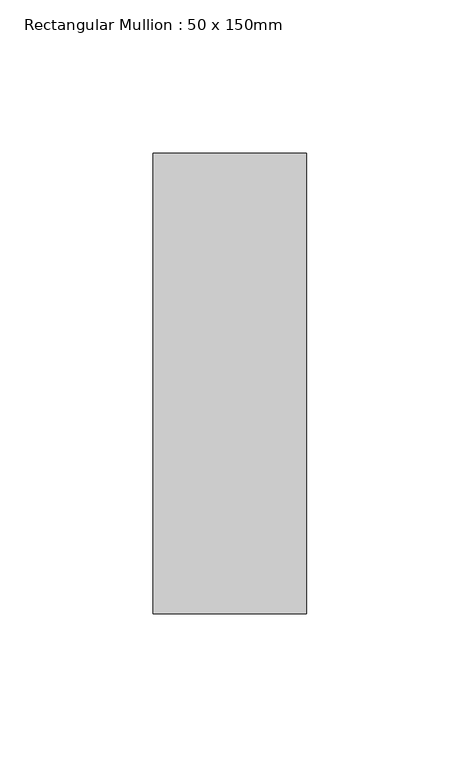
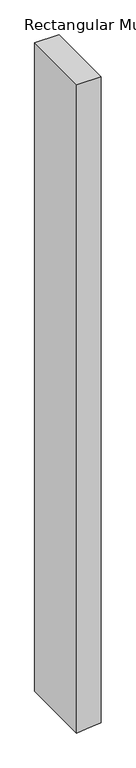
"""IFC4 building model written with IfcOpenShell, lengths in millimetres: member geometry, Rectangular Mullion : 50 x 150mm."""

from ifc_helpers import new_model, si_unit, frame, origin, place, context, project, spatial, polyline, outline, extrude, source, transform, mapped, element, save


def rectangular_mullion_50_x_150mm_a2620aeb(model_context):
    return source(origin(), model_context, "Body", "SweptSolid", [
        extrude(outline(polyline([(0.0, 25.0), (0.0, -25.0), (-1412.4709318, -25.0), (-1410.4601646, -5.0022633), (-1407.443445, 25.0), (0.0, 25.0)])), frame((0.0, -75.0, 0.0), z_axis=(0.0, 1.0, 0.0), x_axis=(0.0, 0.0, 1.0)), (0.0, 0.0, 1.0), 150.0),
    ])


if __name__ == "__main__":
    model = new_model("IFC4")
    model_context = context("Model", 3, world=origin())
    ifc_project = project(units=[si_unit("LENGTHUNIT", "METRE", prefix="MILLI")], contexts=[model_context])
    site = spatial("IfcSite", under=ifc_project)
    building = spatial("IfcBuilding", under=site)
    placement = place(None, origin())
    rectangular_mullion_50_x_150mm_shape = rectangular_mullion_50_x_150mm_a2620aeb(model_context)
    element("IfcMember", 1, ObjectType="Rectangular Mullion : 50 x 150mm", at=placement, inside=building, context=model_context, shape_type="MappedRepresentation", body=[
        mapped(rectangular_mullion_50_x_150mm_shape, transform((0.0, 0.0, 0.0), x_axis=(1.0, 0.0, 0.0), y_axis=(0.0, 1.0, 0.0), z_axis=(0.0, 0.0, 1.0))),
    ])
    save(model, "model.ifc")
